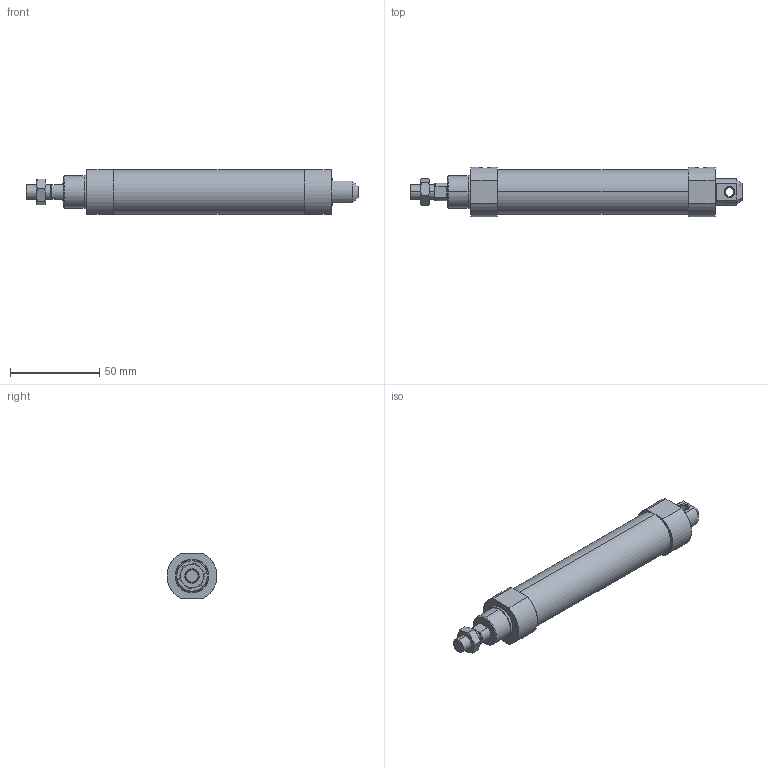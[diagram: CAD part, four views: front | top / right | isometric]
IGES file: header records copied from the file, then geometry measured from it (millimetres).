
Start section: SolidWorks IGES file using analytic representation for surfaces
Global section: file name: C:\Users\Toshiba\Desktop\J#2-20-75-C.IGS; native system: SolidWorks 2014; preprocessor: SolidWorks 2014; author: Toshiba; date: 160308.145923; units: millimetre
Bounding box: 186 x 28 x 25 mm (x, y, z)
Surface area: 15664.4 mm2 (no closed solid volume)
Topology: 0 solids, 0 shells, 84 faces, 1328 edges, 1328 vertices
Faces by surface type: bspline 48, revolution 36
